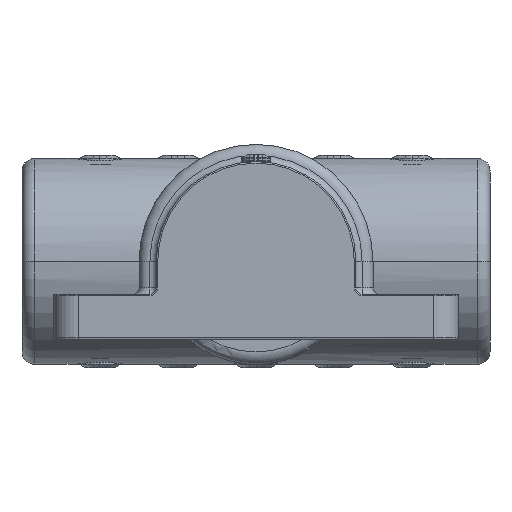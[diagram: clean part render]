
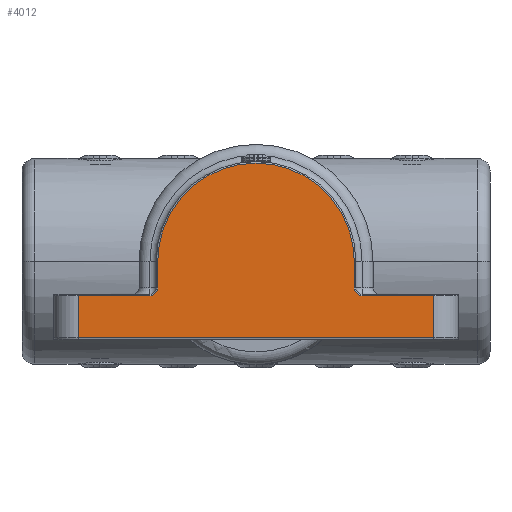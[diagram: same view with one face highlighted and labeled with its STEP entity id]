
A CAD part, front view. The second image highlights one B-rep face of the part: STEP entity #4012.
In plain terms, the highlighted planar face has unit normal (0, -1, 0) as drawn and (0, 0, -1) by its records, which use the part's own axes.
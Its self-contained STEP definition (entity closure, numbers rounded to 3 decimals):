
#202=PLANE('',#4616);
#345=CIRCLE('',#4617,2.5);
#346=CIRCLE('',#4618,31.5);
#347=CIRCLE('',#4619,2.5);
#584=FACE_OUTER_BOUND('',#835,.T.);
#835=EDGE_LOOP('',(#2847,#2848,#2849,#2850,#2851,#2852,#2853,#2854,#2855,
#2856));
#1105=LINE('',#6710,#1361);
#1110=LINE('',#6723,#1366);
#1111=LINE('',#6727,#1367);
#1112=LINE('',#6729,#1368);
#1113=LINE('',#6733,#1369);
#1114=LINE('',#6737,#1370);
#1115=LINE('',#6740,#1371);
#1361=VECTOR('',#5269,10.);
#1366=VECTOR('',#5282,10.);
#1367=VECTOR('',#5287,10.);
#1368=VECTOR('',#5288,10.);
#1369=VECTOR('',#5291,10.);
#1370=VECTOR('',#5294,10.);
#1371=VECTOR('',#5297,10.);
#1735=VERTEX_POINT('',#6647);
#1752=VERTEX_POINT('',#6706);
#1756=VERTEX_POINT('',#6722);
#1757=VERTEX_POINT('',#6726);
#1758=VERTEX_POINT('',#6728);
#1759=VERTEX_POINT('',#6730);
#1760=VERTEX_POINT('',#6732);
#1761=VERTEX_POINT('',#6734);
#1762=VERTEX_POINT('',#6736);
#1763=VERTEX_POINT('',#6738);
#2168=EDGE_CURVE('',#1735,#1752,#1105,.T.);
#2174=EDGE_CURVE('',#1752,#1756,#1110,.T.);
#2176=EDGE_CURVE('',#1757,#1735,#1111,.T.);
#2177=EDGE_CURVE('',#1758,#1757,#1112,.T.);
#2178=EDGE_CURVE('',#1759,#1758,#345,.T.);
#2179=EDGE_CURVE('',#1760,#1759,#1113,.T.);
#2180=EDGE_CURVE('',#1761,#1760,#346,.T.);
#2181=EDGE_CURVE('',#1762,#1761,#1114,.T.);
#2182=EDGE_CURVE('',#1763,#1762,#347,.T.);
#2183=EDGE_CURVE('',#1756,#1763,#1115,.T.);
#2847=ORIENTED_EDGE('',*,*,#2168,.F.);
#2848=ORIENTED_EDGE('',*,*,#2176,.F.);
#2849=ORIENTED_EDGE('',*,*,#2177,.F.);
#2850=ORIENTED_EDGE('',*,*,#2178,.F.);
#2851=ORIENTED_EDGE('',*,*,#2179,.F.);
#2852=ORIENTED_EDGE('',*,*,#2180,.F.);
#2853=ORIENTED_EDGE('',*,*,#2181,.F.);
#2854=ORIENTED_EDGE('',*,*,#2182,.F.);
#2855=ORIENTED_EDGE('',*,*,#2183,.F.);
#2856=ORIENTED_EDGE('',*,*,#2174,.F.);
#4012=ADVANCED_FACE('',(#584),#202,.F.);
#4616=AXIS2_PLACEMENT_3D('',#6725,#5285,#5286);
#4617=AXIS2_PLACEMENT_3D('',#6731,#5289,#5290);
#4618=AXIS2_PLACEMENT_3D('',#6735,#5292,#5293);
#4619=AXIS2_PLACEMENT_3D('',#6739,#5295,#5296);
#5269=DIRECTION('',(1.,0.,0.));
#5282=DIRECTION('',(0.,1.,0.));
#5285=DIRECTION('center_axis',(0.,0.,1.));
#5286=DIRECTION('ref_axis',(1.,0.,0.));
#5287=DIRECTION('',(0.,-1.,0.));
#5288=DIRECTION('',(-1.,0.,0.));
#5289=DIRECTION('center_axis',(0.,0.,-1.));
#5290=DIRECTION('ref_axis',(0.707,-0.707,0.));
#5291=DIRECTION('',(0.,-1.,0.));
#5292=DIRECTION('center_axis',(0.,0.,1.));
#5293=DIRECTION('ref_axis',(0.,1.,0.));
#5294=DIRECTION('',(0.,1.,0.));
#5295=DIRECTION('center_axis',(0.,0.,-1.));
#5296=DIRECTION('ref_axis',(-0.707,-0.707,0.));
#5297=DIRECTION('',(-1.,0.,0.));
#6647=CARTESIAN_POINT('',(-57.,-24.5,-75.));
#6706=CARTESIAN_POINT('',(57.,-24.5,-75.));
#6710=CARTESIAN_POINT('',(-32.5,-24.5,-75.));
#6722=CARTESIAN_POINT('',(57.,-11.,-75.));
#6723=CARTESIAN_POINT('',(57.,-10.75,-75.));
#6725=CARTESIAN_POINT('Origin',(0.,3.5,-75.));
#6726=CARTESIAN_POINT('',(-57.,-11.,-75.));
#6727=CARTESIAN_POINT('',(-57.,-3.5,-75.));
#6728=CARTESIAN_POINT('',(-34.,-11.,-75.));
#6729=CARTESIAN_POINT('',(-17.,-11.,-75.));
#6730=CARTESIAN_POINT('',(-31.5,-8.5,-75.));
#6731=CARTESIAN_POINT('Origin',(-34.,-8.5,-75.));
#6732=CARTESIAN_POINT('',(-31.5,0.,-75.));
#6733=CARTESIAN_POINT('',(-31.5,1.75,-75.));
#6734=CARTESIAN_POINT('',(31.5,0.,-75.));
#6735=CARTESIAN_POINT('Origin',(0.,0.,-75.));
#6736=CARTESIAN_POINT('',(31.5,-8.5,-75.));
#6737=CARTESIAN_POINT('',(31.5,-2.5,-75.));
#6738=CARTESIAN_POINT('',(34.,-11.,-75.));
#6739=CARTESIAN_POINT('Origin',(34.,-8.5,-75.));
#6740=CARTESIAN_POINT('',(32.5,-11.,-75.));
